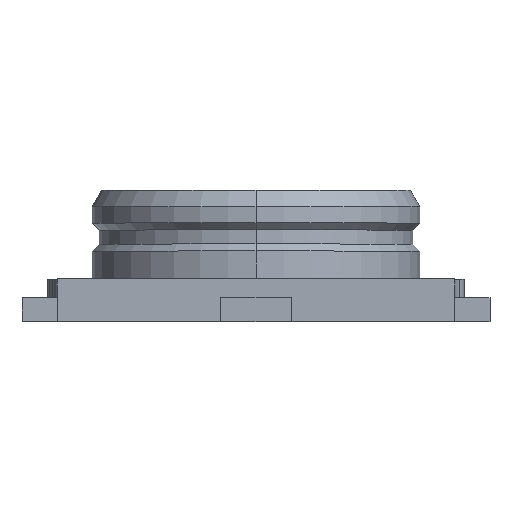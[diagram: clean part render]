
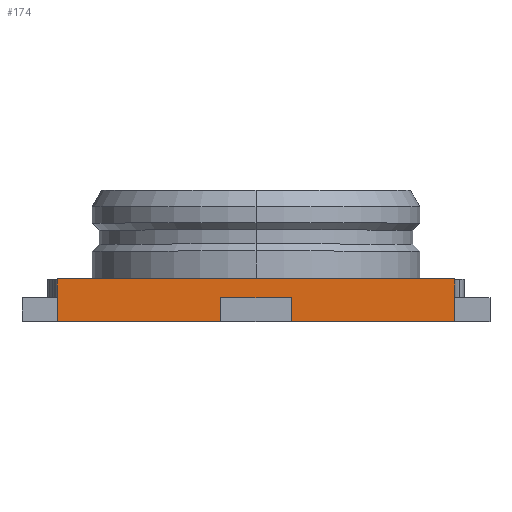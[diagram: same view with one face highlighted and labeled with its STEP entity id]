
A CAD part, top view. The second image highlights one B-rep face of the part: STEP entity #174.
In plain terms, the highlighted planar face has unit normal (0, 0, 1).
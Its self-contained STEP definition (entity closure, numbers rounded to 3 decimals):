
#9 = EDGE_CURVE ( 'NONE', #138, #1974, #478, .T. ) ;
#58 = PLANE ( 'NONE',  #85 ) ;
#85 = AXIS2_PLACEMENT_3D ( 'NONE', #1075, #1674, #387 ) ;
#138 = VERTEX_POINT ( 'NONE', #1136 ) ;
#152 = CARTESIAN_POINT ( 'NONE',  ( 0.15, 0., 0.85 ) ) ;
#174 = ADVANCED_FACE ( 'NONE', ( #1994 ), #58, .F. ) ;
#212 = CARTESIAN_POINT ( 'NONE',  ( 0.15, 0.18, 0.85 ) ) ;
#257 = ORIENTED_EDGE ( 'NONE', *, *, #1473, .F. ) ;
#283 = CARTESIAN_POINT ( 'NONE',  ( 0.15, 0.1, 0.85 ) ) ;
#312 = VECTOR ( 'NONE', #673, 1000. ) ;
#313 = LINE ( 'NONE', #2052, #713 ) ;
#366 = LINE ( 'NONE', #493, #312 ) ;
#387 = DIRECTION ( 'NONE',  ( -1., 0., 0. ) ) ;
#397 = CARTESIAN_POINT ( 'NONE',  ( 0.85, 0.18, 0.85 ) ) ;
#449 = VECTOR ( 'NONE', #2035, 1000. ) ;
#478 = LINE ( 'NONE', #2080, #1386 ) ;
#493 = CARTESIAN_POINT ( 'NONE',  ( -0.85, 0.18, 0.85 ) ) ;
#498 = EDGE_CURVE ( 'NONE', #906, #721, #1189, .T. ) ;
#521 = DIRECTION ( 'NONE',  ( -1., 0., 0. ) ) ;
#552 = LINE ( 'NONE', #1780, #1815 ) ;
#582 = CARTESIAN_POINT ( 'NONE',  ( -0.85, 0., 0.85 ) ) ;
#588 = VERTEX_POINT ( 'NONE', #924 ) ;
#611 = ORIENTED_EDGE ( 'NONE', *, *, #9, .F. ) ;
#650 = EDGE_CURVE ( 'NONE', #588, #1823, #1820, .T. ) ;
#664 = CARTESIAN_POINT ( 'NONE',  ( -0.85, 0.1, 0.85 ) ) ;
#673 = DIRECTION ( 'NONE',  ( 1., 0., 0. ) ) ;
#676 = CARTESIAN_POINT ( 'NONE',  ( -0.85, 0.18, 0.85 ) ) ;
#712 = VECTOR ( 'NONE', #1703, 1000. ) ;
#713 = VECTOR ( 'NONE', #1505, 1000. ) ;
#721 = VERTEX_POINT ( 'NONE', #283 ) ;
#737 = VECTOR ( 'NONE', #1754, 1000. ) ;
#760 = LINE ( 'NONE', #1247, #712 ) ;
#830 = CARTESIAN_POINT ( 'NONE',  ( -0.15, 0., 0.85 ) ) ;
#906 = VERTEX_POINT ( 'NONE', #152 ) ;
#924 = CARTESIAN_POINT ( 'NONE',  ( 0.85, 0., 0.85 ) ) ;
#1047 = ORIENTED_EDGE ( 'NONE', *, *, #1784, .F. ) ;
#1075 = CARTESIAN_POINT ( 'NONE',  ( -0.85, 0.18, 0.85 ) ) ;
#1082 = EDGE_CURVE ( 'NONE', #2205, #1961, #313, .T. ) ;
#1136 = CARTESIAN_POINT ( 'NONE',  ( -0.15, 0.1, 0.85 ) ) ;
#1189 = LINE ( 'NONE', #212, #737 ) ;
#1247 = CARTESIAN_POINT ( 'NONE',  ( 0., 0., 0.85 ) ) ;
#1386 = VECTOR ( 'NONE', #1612, 1000. ) ;
#1473 = EDGE_CURVE ( 'NONE', #721, #138, #1793, .T. ) ;
#1478 = ORIENTED_EDGE ( 'NONE', *, *, #1800, .T. ) ;
#1505 = DIRECTION ( 'NONE',  ( 0., 1., 0. ) ) ;
#1518 = ORIENTED_EDGE ( 'NONE', *, *, #650, .T. ) ;
#1574 = ORIENTED_EDGE ( 'NONE', *, *, #498, .F. ) ;
#1612 = DIRECTION ( 'NONE',  ( 0., -1., 0. ) ) ;
#1650 = EDGE_CURVE ( 'NONE', #906, #588, #552, .T. ) ;
#1674 = DIRECTION ( 'NONE',  ( 0., 0., -1. ) ) ;
#1703 = DIRECTION ( 'NONE',  ( 1., 0., 0. ) ) ;
#1754 = DIRECTION ( 'NONE',  ( 0., 1., 0. ) ) ;
#1780 = CARTESIAN_POINT ( 'NONE',  ( 0., 0., 0.85 ) ) ;
#1784 = EDGE_CURVE ( 'NONE', #1961, #1823, #366, .T. ) ;
#1793 = LINE ( 'NONE', #664, #2141 ) ;
#1800 = EDGE_CURVE ( 'NONE', #2205, #1974, #760, .T. ) ;
#1810 = DIRECTION ( 'NONE',  ( 1., 0., 0. ) ) ;
#1815 = VECTOR ( 'NONE', #1810, 1000. ) ;
#1820 = LINE ( 'NONE', #2204, #449 ) ;
#1823 = VERTEX_POINT ( 'NONE', #397 ) ;
#1901 = ORIENTED_EDGE ( 'NONE', *, *, #1082, .F. ) ;
#1961 = VERTEX_POINT ( 'NONE', #676 ) ;
#1974 = VERTEX_POINT ( 'NONE', #830 ) ;
#1981 = ORIENTED_EDGE ( 'NONE', *, *, #1650, .T. ) ;
#1994 = FACE_OUTER_BOUND ( 'NONE', #2108, .T. ) ;
#2035 = DIRECTION ( 'NONE',  ( 0., 1., 0. ) ) ;
#2052 = CARTESIAN_POINT ( 'NONE',  ( -0.85, 0.18, 0.85 ) ) ;
#2080 = CARTESIAN_POINT ( 'NONE',  ( -0.15, 0.18, 0.85 ) ) ;
#2108 = EDGE_LOOP ( 'NONE', ( #257, #1574, #1981, #1518, #1047, #1901, #1478, #611 ) ) ;
#2141 = VECTOR ( 'NONE', #521, 1000. ) ;
#2204 = CARTESIAN_POINT ( 'NONE',  ( 0.85, 0.18, 0.85 ) ) ;
#2205 = VERTEX_POINT ( 'NONE', #582 ) ;
